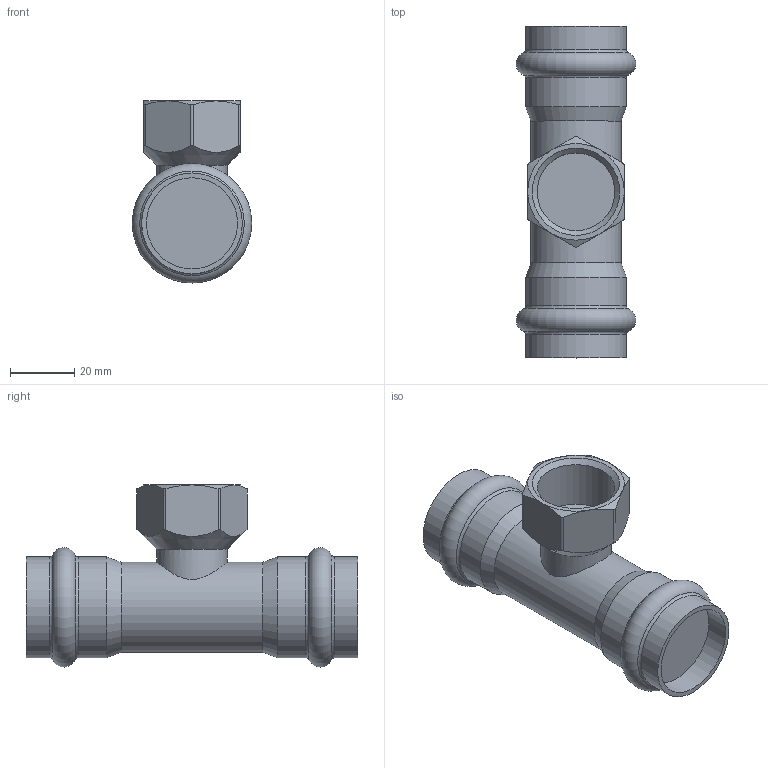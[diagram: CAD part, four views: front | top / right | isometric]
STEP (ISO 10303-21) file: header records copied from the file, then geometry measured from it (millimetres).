
FILE_DESCRIPTION(('STEP AP203'), '1');
FILE_NAME('VTi.932.I.280528', '', ('UNSPECIFIED'), ('UNSPECIFIED'), 'C3D Converter', 'C3D Toolkit', '');
FILE_SCHEMA(('CONFIG_CONTROL_DESIGN'));
Length unit declared in the file: millimetre
Bounding box: 37.1 x 103 x 56.55 mm (x, y, z)
Volume: 74825.1 mm3; surface area: 17307.3 mm2
Topology: 1 solids, 1 shells, 43 faces, 94 edges, 56 vertices
Faces by surface type: cylinder 15, plane 12, cone 10, torus 6
Full cylindrical faces by diameter (mm): 22 x1, 24.118 x1, 28 x1, 28.3 x2, 31.26 x4
Entity records: 2316 total; most frequent: CARTESIAN_POINT 1462, DIRECTION 156, ORIENTED_EDGE 148, EDGE_CURVE 74, AXIS2_PLACEMENT_3D 72, EDGE_LOOP 66, VERTEX_POINT 56, ADVANCED_FACE 43
